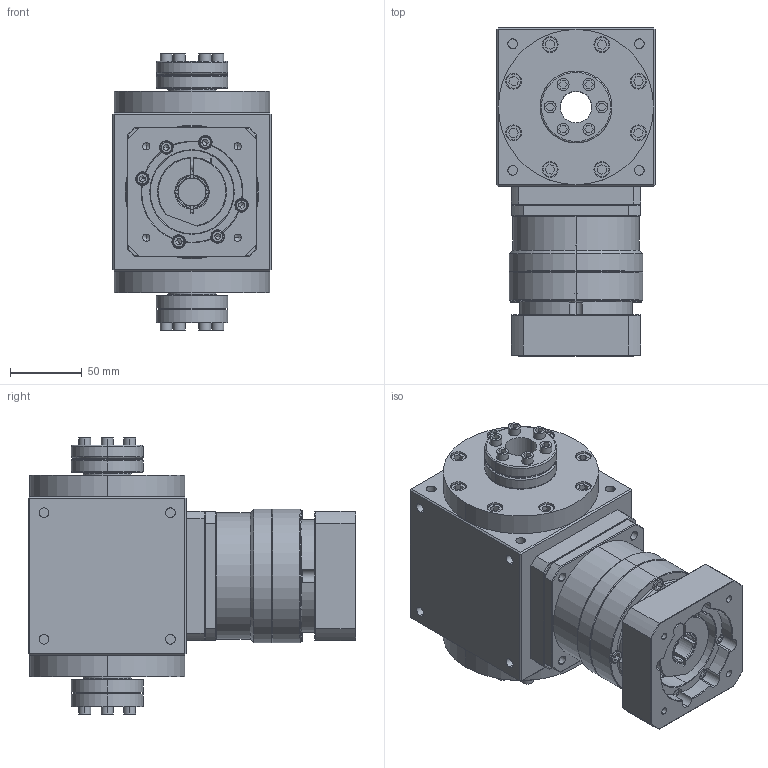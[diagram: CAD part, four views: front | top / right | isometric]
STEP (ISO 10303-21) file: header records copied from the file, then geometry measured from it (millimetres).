
FILE_DESCRIPTION (( 'STEP AP203' ), '1' );
FILE_NAME ('AT110-FC-L1 19-70-90-M6.STEP', '2024-12-19T09:10:33', ( '' ), ( '' ), 'SwSTEP 2.0', 'SolidWorks 2021', '' );
FILE_SCHEMA (( 'CONFIG_CONTROL_DESIGN' ));
Length unit declared in the file: millimetre
Products named in the file (3): AT110-FC-L1 19-70-90-M6; AT110-FC; VRB-090-L1-S2-P1 19-70-90-M6
Assembly tree (2 placements, depth 2):
  AT110-FC-L1 19-70-90-M6
    AT110-FC
    VRB-090-L1-S2-P1 19-70-90-M6
Bounding box: 110 x 228 x 192 mm (x, y, z)
Volume: 2334703.7 mm3; surface area: 259910.8 mm2
Topology: 32 solids, 32 shells, 1435 faces, 3468 edges, 2178 vertices
Faces by surface type: plane 669, cylinder 535, cone 181, torus 38, bspline 12
Entity records: 44011 total; most frequent: CARTESIAN_POINT 9999, DIRECTION 7325, ORIENTED_EDGE 6812, EDGE_CURVE 3406, AXIS2_PLACEMENT_3D 2785, VERTEX_POINT 2178, LINE 1755, VECTOR 1755
